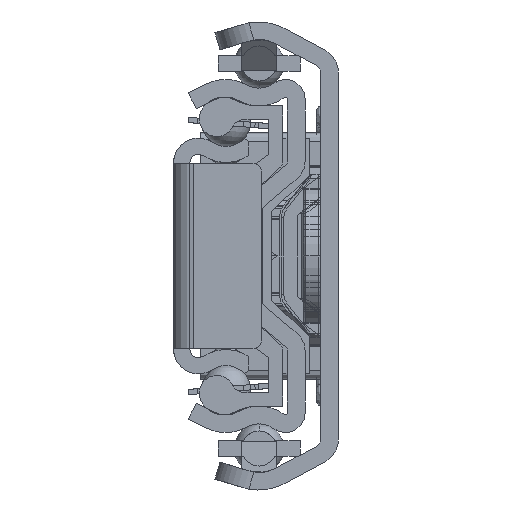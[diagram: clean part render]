
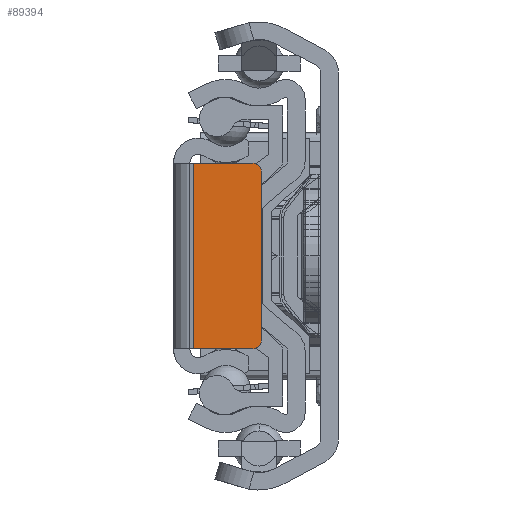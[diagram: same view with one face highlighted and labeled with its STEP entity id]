
A CAD part, left-side view. The second image highlights one B-rep face of the part: STEP entity #89394.
In plain terms, the highlighted planar face has unit normal (-1, 0, 0).
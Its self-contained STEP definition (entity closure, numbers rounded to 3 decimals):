
#82593=DIRECTION('',(0.,-1.,0.));
#82594=VECTOR('',#82593,6.7);
#82595=CARTESIAN_POINT('',(0.,-2.3,10.5));
#82596=LINE('',#82595,#82594);
#83798=DIRECTION('',(0.,-1.,0.));
#83799=VECTOR('',#83798,6.7);
#83800=CARTESIAN_POINT('',(0.,-2.3,-10.5));
#83801=LINE('',#83800,#83799);
#83802=CARTESIAN_POINT('',(0.,-9.,9.5));
#83803=DIRECTION('',(-1.,0.,0.));
#83804=DIRECTION('',(0.,-1.,0.));
#83805=AXIS2_PLACEMENT_3D('',#83802,#83803,#83804);
#83807=CARTESIAN_POINT('',(0.,-9.,-9.5));
#83808=DIRECTION('',(-1.,0.,0.));
#83809=DIRECTION('',(0.,0.,-1.));
#83810=AXIS2_PLACEMENT_3D('',#83807,#83808,#83809);
#83812=DIRECTION('',(0.,0.,1.));
#83813=VECTOR('',#83812,21.);
#83814=CARTESIAN_POINT('',(0.,-2.3,-10.5));
#83815=LINE('',#83814,#83813);
#83824=DIRECTION('',(0.,0.,1.));
#83825=VECTOR('',#83824,19.);
#83826=CARTESIAN_POINT('',(0.,-10.,-9.5));
#83827=LINE('',#83826,#83825);
#87167=CARTESIAN_POINT('',(0.,-2.3,-10.5));
#87168=CARTESIAN_POINT('',(0.,-2.3,10.5));
#87169=VERTEX_POINT('',#87167);
#87170=VERTEX_POINT('',#87168);
#87192=CARTESIAN_POINT('',(0.,-10.,9.5));
#87193=VERTEX_POINT('',#87192);
#87194=CARTESIAN_POINT('',(0.,-9.,10.5));
#87195=VERTEX_POINT('',#87194);
#87196=CARTESIAN_POINT('',(0.,-9.,-10.5));
#87197=CARTESIAN_POINT('',(0.,-10.,-9.5));
#87198=VERTEX_POINT('',#87196);
#87199=VERTEX_POINT('',#87197);
#89379=CARTESIAN_POINT('',(0.,-2.3,-10.5));
#89380=DIRECTION('',(-1.,0.,0.));
#89381=DIRECTION('',(0.,-1.,0.));
#89382=AXIS2_PLACEMENT_3D('',#89379,#89380,#89381);
#89383=PLANE('',#89382);
#89384=ORIENTED_EDGE('',*,*,#88377,.F.);
#89386=ORIENTED_EDGE('',*,*,#89385,.F.);
#89387=ORIENTED_EDGE('',*,*,#89370,.F.);
#89388=ORIENTED_EDGE('',*,*,#89360,.F.);
#89390=ORIENTED_EDGE('',*,*,#89389,.T.);
#89391=ORIENTED_EDGE('',*,*,#88354,.T.);
#89392=EDGE_LOOP('',(#89384,#89386,#89387,#89388,#89390,#89391));
#89393=FACE_OUTER_BOUND('',#89392,.F.);
#83806=CIRCLE('',#83805,1.);
#83811=CIRCLE('',#83810,1.);
#88354=EDGE_CURVE('',#87170,#87195,#82596,.T.);
#88377=EDGE_CURVE('',#87193,#87195,#83806,.T.);
#89360=EDGE_CURVE('',#87169,#87198,#83801,.T.);
#89370=EDGE_CURVE('',#87198,#87199,#83811,.T.);
#89385=EDGE_CURVE('',#87199,#87193,#83827,.T.);
#89389=EDGE_CURVE('',#87169,#87170,#83815,.T.);
#89394=ADVANCED_FACE('',(#89393),#89383,.T.);
